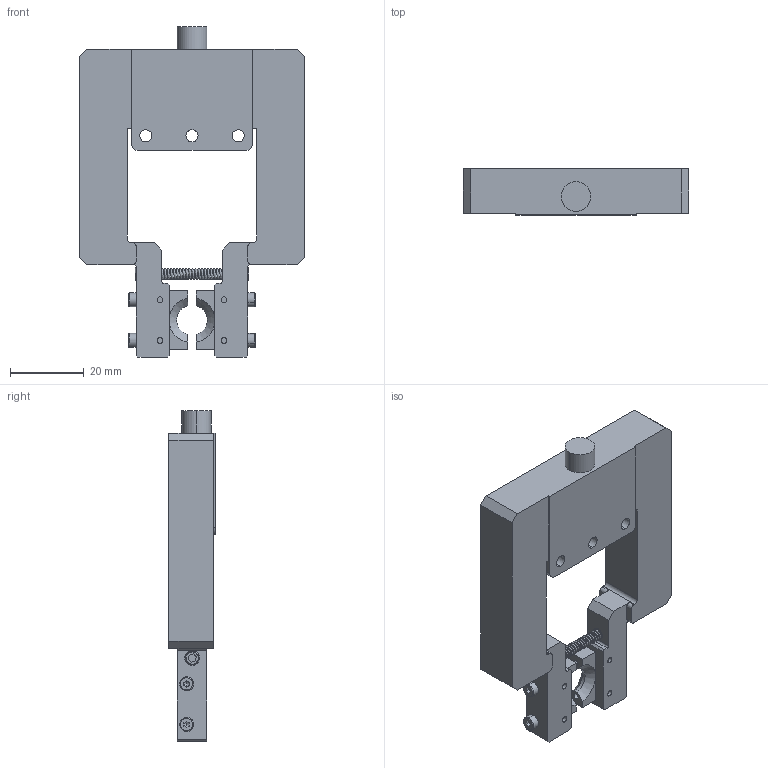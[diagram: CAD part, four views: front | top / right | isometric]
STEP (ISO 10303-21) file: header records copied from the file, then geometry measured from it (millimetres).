
FILE_DESCRIPTION (( 'STEP AP214' ), '1' );
FILE_NAME ('XD002.250K-B1³ß´çÍ¼.STEP', '2024-03-21T07:58:29', ( '' ), ( '' ), 'SwSTEP 2.0', 'SolidWorks 2016', '' );
FILE_SCHEMA (( 'AUTOMOTIVE_DESIGN' ));
Length unit declared in the file: millimetre
Products named in the file (1): XD002.250K-B1喜渡芞
Bounding box: 61 x 12.5 x 89.5 mm (x, y, z)
Volume: 34516.8 mm3; surface area: 14268.4 mm2
Topology: 10 solids, 10 shells, 1332 faces, 3549 edges, 2344 vertices
Faces by surface type: plane 744, bspline 460, cylinder 90, cone 30, torus 8
Entity records: 82803 total; most frequent: CARTESIAN_POINT 37808, ORIENTED_EDGE 7074, DIRECTION 4601, EDGE_CURVE 3537, VECTOR 2351, LINE 2351, VERTEX_POINT 2344, EDGE_LOOP 1485
